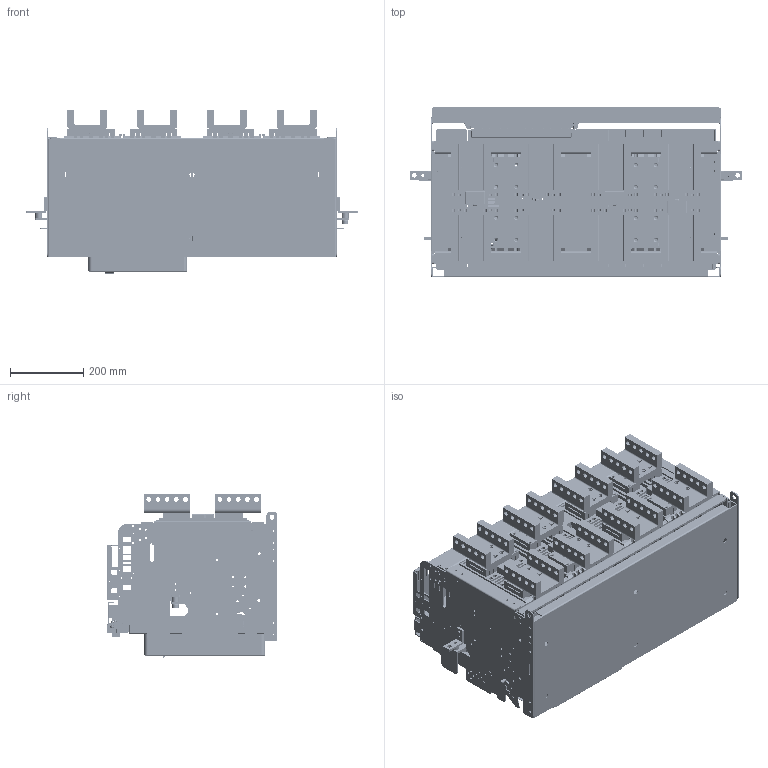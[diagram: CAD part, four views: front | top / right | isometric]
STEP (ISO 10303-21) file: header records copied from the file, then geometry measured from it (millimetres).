
FILE_DESCRIPTION((''),'2;1');
FILE_NAME('HG_22_C504V_ASM_ASM','2019-03-27T',('HHI'),(''),'PRO/ENGINEER BY PARAMETRIC TECHNOLOGY CORPORATION, 2012453','PRO/ENGINEER BY PARAMETRIC TECHNOLOGY CORPORATION, 2012453','');
FILE_SCHEMA(('CONFIG_CONTROL_DESIGN'));
Products named in the file (68): PRT0372; PRT0373; PRT0374; ASM0094_ASM; ASM0093_ASM; PRT0375; PRT0376; ASM0096_ASM; ASM0095_ASM; PRT0377; PRT0378; ASM0097_ASM; PRT0379; PRT0380; ASM0099_ASM; PRT0381; PRT0382; ASM0098_ASM; PRT0383; ASM0100_ASM; PRT0384; PRT0385; PRT0386; PRT0387; PRT0388; PRT0389; PRT0390; ASM0102_ASM; PRT0391; PRT0392; PRT0393; PRT0394; ASM0103_ASM; PRT0395; ASM0101_ASM; PRT0396; PRT0397; PRT0399; PRT0400; PRT0401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
Assembly tree (154 placements, depth 7):
  HG_22_C504V_ASM_ASM
    C504V_ASM_5_ASM_ASM
      PRT0372
      ASM0093_ASM
        PRT0373
        ASM0094_ASM
          PRT0374
      ASM0095_ASM
        ASM0096_ASM
          PRT0375
          PRT0376
      ASM0097_ASM
        PRT0377
        PRT0378  x4
      ASM0098_ASM
        ASM0099_ASM  x2
          PRT0379
          PRT0380
        PRT0381  x32
        PRT0382  x8
      ASM0100_ASM
        PRT0383
      PRT0384
      ASM0101_ASM
        PRT0385
        PRT0386
        PRT0387  x2
        ASM0102_ASM  x2
          PRT0388
          PRT0389
          PRT0390
        PRT0391
        ASM0103_ASM  x2
          PRT0392
          PRT0393
          PRT0394
        PRT0395
      PRT0396  x8
      ASM0104_ASM
        ASM0105_ASM
          ASM0106_ASM
            PRT0397
            ASM0107_ASM
              PRT0399
              PRT0400
              PRT0401
              PRT0402
            ASM0108_ASM
              PRT0403
              PRT0404
              PRT0405
            PRT0408
          PRT0409
        PRT0410
        PRT0411
      PRT0412
      ASM0109_ASM
        PRT0413
        PRT0414
        PRT0415
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Bounding box: 906 x 466.35 x 448.03 mm (x, y, z)
Volume: 13203290.9 mm3; surface area: 6436375.8 mm2
Topology: 175 solids, 192 shells, 20465 faces, 59837 edges, 39248 vertices
Faces by surface type: plane 14459, cylinder 4671, cone 597, torus 281, sphere 203, extrusion 175, bspline 79
Entity records: 527444 total; most frequent: CARTESIAN_POINT 99588, ORIENTED_EDGE 91906, DIRECTION 84499, EDGE_CURVE 46084, VECTOR 37801, LINE 37626, VERTEX_POINT 30379, AXIS2_PLACEMENT_3D 23349
